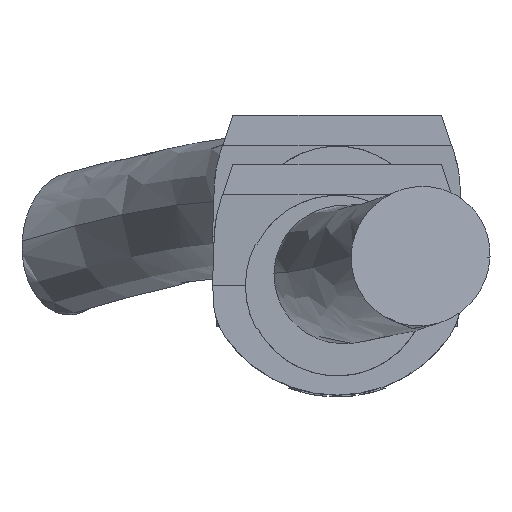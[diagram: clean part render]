
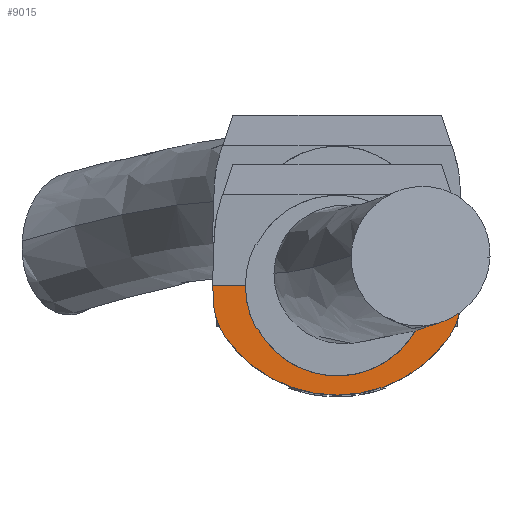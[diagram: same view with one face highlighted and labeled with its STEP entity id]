
A CAD part, top view. The second image highlights one B-rep face of the part: STEP entity #9015.
In plain terms, the highlighted planar face has unit normal (0, 0.035, 0.999).
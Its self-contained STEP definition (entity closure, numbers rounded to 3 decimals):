
#34 = ORIENTED_EDGE ( 'NONE', *, *, #12777, .F. ) ;
#42 = CARTESIAN_POINT ( 'NONE',  ( 441.239, -510.794, 1731.139 ) ) ;
#105 = VERTEX_POINT ( 'NONE', #12569 ) ;
#113 = CARTESIAN_POINT ( 'NONE',  ( 301.746, -524.598, 1731.621 ) ) ;
#151 = CARTESIAN_POINT ( 'NONE',  ( 392.027, -561.859, 1732.922 ) ) ;
#211 = CARTESIAN_POINT ( 'NONE',  ( 319.954, -519.678, 1731.449 ) ) ;
#235 = CARTESIAN_POINT ( 'NONE',  ( 320.951, -519.678, 1731.449 ) ) ;
#421 = CARTESIAN_POINT ( 'NONE',  ( 422.477, -503.003, 1730.867 ) ) ;
#592 = VERTEX_POINT ( 'NONE', #9440 ) ;
#608 = CARTESIAN_POINT ( 'NONE',  ( 313.523, -503.003, 1730.867 ) ) ;
#1221 =( BOUNDED_CURVE ( )  B_SPLINE_CURVE ( 3, ( #211, #7818, #608, #4470 ),
 .UNSPECIFIED., .F., .T. ) 
 B_SPLINE_CURVE_WITH_KNOTS ( ( 4, 4 ),
 ( 1.08, 1.571 ),
 .UNSPECIFIED. ) 
 CURVE ( )  GEOMETRIC_REPRESENTATION_ITEM ( )  RATIONAL_B_SPLINE_CURVE ( ( 1., 0.98, 0.98, 1. ) ) 
 REPRESENTATION_ITEM ( '' )  );
#1346 = VERTEX_POINT ( 'NONE', #6420 ) ;
#1577 = VERTEX_POINT ( 'NONE', #5758 ) ;
#1724 = VERTEX_POINT ( 'NONE', #4118 ) ;
#1808 = VERTEX_POINT ( 'NONE', #1830 ) ;
#1830 = CARTESIAN_POINT ( 'NONE',  ( 416.046, -519.678, 1731.449 ) ) ;
#1998 = ORIENTED_EDGE ( 'NONE', *, *, #4151, .F. ) ;
#2457 = ORIENTED_EDGE ( 'NONE', *, *, #5924, .F. ) ;
#2800 = LINE ( 'NONE', #8383, #3542 ) ;
#3139 = CARTESIAN_POINT ( 'NONE',  ( 294.488, -502.983, 1730.866 ) ) ;
#3290 = CARTESIAN_POINT ( 'NONE',  ( 301.746, -524.598, 1731.621 ) ) ;
#3317 = EDGE_CURVE ( 'NONE', #6737, #5479, #4514, .T. ) ;
#3387 = CARTESIAN_POINT ( 'NONE',  ( 268., -519.678, 1731.449 ) ) ;
#3441 = CARTESIAN_POINT ( 'NONE',  ( 415.049, -519.678, 1731.449 ) ) ;
#3466 = CARTESIAN_POINT ( 'NONE',  ( 438.751, -518.204, 1731.397 ) ) ;
#3542 = VECTOR ( 'NONE', #8311, 1000. ) ;
#3551 = EDGE_CURVE ( 'NONE', #13676, #8417, #11259, .T. ) ;
#3559 = CARTESIAN_POINT ( 'NONE',  ( 434.254, -524.598, 1731.621 ) ) ;
#3765 = CARTESIAN_POINT ( 'NONE',  ( 337.192, -574.997, 1733.381 ) ) ;
#3778 = ORIENTED_EDGE ( 'NONE', *, *, #10035, .T. ) ;
#3847 = DIRECTION ( 'NONE',  ( -0.035, -0.999, 0.035 ) ) ;
#3934 = ORIENTED_EDGE ( 'NONE', *, *, #6080, .T. ) ;
#4118 = CARTESIAN_POINT ( 'NONE',  ( 294.488, -502.983, 1730.866 ) ) ;
#4151 = EDGE_CURVE ( 'NONE', #1577, #592, #11123, .T. ) ;
#4469 = CARTESIAN_POINT ( 'NONE',  ( 297.249, -518.204, 1731.397 ) ) ;
#4470 = CARTESIAN_POINT ( 'NONE',  ( 313.523, -494., 1730.552 ) ) ;
#4484 = EDGE_CURVE ( 'NONE', #9795, #5481, #13290, .T. ) ;
#4508 = CARTESIAN_POINT ( 'NONE',  ( 434.254, -524.598, 1731.621 ) ) ;
#4514 =( BOUNDED_CURVE ( )  B_SPLINE_CURVE ( 3, ( #4551, #11772, #151, #3441 ),
 .UNSPECIFIED., .F., .F. ) 
 B_SPLINE_CURVE_WITH_KNOTS ( ( 4, 4 ),
 ( 2.07, 4.213 ),
 .UNSPECIFIED. ) 
 CURVE ( )  GEOMETRIC_REPRESENTATION_ITEM ( )  RATIONAL_B_SPLINE_CURVE ( ( 1., 0.653, 0.653, 1. ) ) 
 REPRESENTATION_ITEM ( '' )  );
#4551 = CARTESIAN_POINT ( 'NONE',  ( 320.951, -519.678, 1731.449 ) ) ;
#4559 = CARTESIAN_POINT ( 'NONE',  ( 415.049, -519.678, 1731.449 ) ) ;
#4787 = VECTOR ( 'NONE', #3847, 1000. ) ;
#5039 = AXIS2_PLACEMENT_3D ( 'NONE', #6246, #8640, #8502 ) ;
#5242 = VECTOR ( 'NONE', #7913, 1000. ) ;
#5479 = VERTEX_POINT ( 'NONE', #4559 ) ;
#5481 = VERTEX_POINT ( 'NONE', #12438 ) ;
#5519 = ORIENTED_EDGE ( 'NONE', *, *, #13497, .F. ) ;
#5656 = ORIENTED_EDGE ( 'NONE', *, *, #6705, .T. ) ;
#5723 = CARTESIAN_POINT ( 'NONE',  ( 416.046, -519.678, 1731.449 ) ) ;
#5734 = VECTOR ( 'NONE', #8701, 1000. ) ;
#5758 = CARTESIAN_POINT ( 'NONE',  ( 294.175, -494., 1730.552 ) ) ;
#5780 = EDGE_CURVE ( 'NONE', #1346, #592, #1221, .T. ) ;
#5924 = EDGE_CURVE ( 'NONE', #5481, #13676, #6365, .T. ) ;
#6017 =( BOUNDED_CURVE ( )  B_SPLINE_CURVE ( 3, ( #8665, #421, #12915, #5723 ),
 .UNSPECIFIED., .F., .T. ) 
 B_SPLINE_CURVE_WITH_KNOTS ( ( 4, 4 ),
 ( 4.712, 5.203 ),
 .UNSPECIFIED. ) 
 CURVE ( )  GEOMETRIC_REPRESENTATION_ITEM ( )  RATIONAL_B_SPLINE_CURVE ( ( 1., 0.98, 0.98, 1. ) ) 
 REPRESENTATION_ITEM ( '' )  );
#6080 = EDGE_CURVE ( 'NONE', #105, #1808, #6017, .T. ) ;
#6174 = EDGE_LOOP ( 'NONE', ( #34, #3934, #3778, #9129, #5656, #8668, #1998, #9323, #5519, #7377, #2457, #8798 ) ) ;
#6246 = CARTESIAN_POINT ( 'NONE',  ( 268., -549., 1732.473 ) ) ;
#6365 =( BOUNDED_CURVE ( )  B_SPLINE_CURVE ( 3, ( #11667, #42, #3466, #4508 ),
 .UNSPECIFIED., .F., .T. ) 
 B_SPLINE_CURVE_WITH_KNOTS ( ( 4, 4 ),
 ( 4.747, 5.325 ),
 .UNSPECIFIED. ) 
 CURVE ( )  GEOMETRIC_REPRESENTATION_ITEM ( )  RATIONAL_B_SPLINE_CURVE ( ( 1., 0.972, 0.972, 1. ) ) 
 REPRESENTATION_ITEM ( '' )  );
#6420 = CARTESIAN_POINT ( 'NONE',  ( 319.954, -519.678, 1731.449 ) ) ;
#6705 = EDGE_CURVE ( 'NONE', #6737, #1346, #10767, .T. ) ;
#6737 = VERTEX_POINT ( 'NONE', #235 ) ;
#7377 = ORIENTED_EDGE ( 'NONE', *, *, #3551, .F. ) ;
#7507 = FACE_OUTER_BOUND ( 'NONE', #6174, .T. ) ;
#7641 = DIRECTION ( 'NONE',  ( -1., 0., 0. ) ) ;
#7645 = CARTESIAN_POINT ( 'NONE',  ( 441.825, -494., 1730.552 ) ) ;
#7654 =( BOUNDED_CURVE ( )  B_SPLINE_CURVE ( 3, ( #3290, #4469, #10605, #3139 ),
 .UNSPECIFIED., .F., .T. ) 
 B_SPLINE_CURVE_WITH_KNOTS ( ( 4, 4 ),
 ( 0.958, 1.536 ),
 .UNSPECIFIED. ) 
 CURVE ( )  GEOMETRIC_REPRESENTATION_ITEM ( )  RATIONAL_B_SPLINE_CURVE ( ( 1., 0.972, 0.972, 1. ) ) 
 REPRESENTATION_ITEM ( '' )  );
#7694 = LINE ( 'NONE', #12717, #10878 ) ;
#7818 = CARTESIAN_POINT ( 'NONE',  ( 315.71, -511.737, 1731.172 ) ) ;
#7913 = DIRECTION ( 'NONE',  ( 1., 0., 0. ) ) ;
#8010 = CARTESIAN_POINT ( 'NONE',  ( 301.746, -524.598, 1731.621 ) ) ;
#8311 = DIRECTION ( 'NONE',  ( 1., 0., 0. ) ) ;
#8383 = CARTESIAN_POINT ( 'NONE',  ( 294.175, -494., 1730.552 ) ) ;
#8417 = VERTEX_POINT ( 'NONE', #113 ) ;
#8502 = DIRECTION ( 'NONE',  ( 0., 0.999, -0.035 ) ) ;
#8640 = DIRECTION ( 'NONE',  ( 0., -0.035, -0.999 ) ) ;
#8665 = CARTESIAN_POINT ( 'NONE',  ( 422.477, -494., 1730.552 ) ) ;
#8668 = ORIENTED_EDGE ( 'NONE', *, *, #5780, .T. ) ;
#8701 = DIRECTION ( 'NONE',  ( -1., 0., 0. ) ) ;
#8798 = ORIENTED_EDGE ( 'NONE', *, *, #4484, .F. ) ;
#9015 = ADVANCED_FACE ( 'NONE', ( #7507 ), #12825, .F. ) ;
#9071 = CARTESIAN_POINT ( 'NONE',  ( 398.808, -574.997, 1733.381 ) ) ;
#9129 = ORIENTED_EDGE ( 'NONE', *, *, #3317, .F. ) ;
#9323 = ORIENTED_EDGE ( 'NONE', *, *, #12445, .F. ) ;
#9440 = CARTESIAN_POINT ( 'NONE',  ( 313.523, -494., 1730.552 ) ) ;
#9795 = VERTEX_POINT ( 'NONE', #7645 ) ;
#10035 = EDGE_CURVE ( 'NONE', #1808, #5479, #11661, .T. ) ;
#10062 = CARTESIAN_POINT ( 'NONE',  ( 294.175, -494., 1730.552 ) ) ;
#10605 = CARTESIAN_POINT ( 'NONE',  ( 294.761, -510.794, 1731.139 ) ) ;
#10767 = LINE ( 'NONE', #3387, #11092 ) ;
#10878 = VECTOR ( 'NONE', #12654, 1000. ) ;
#11092 = VECTOR ( 'NONE', #7641, 1000. ) ;
#11123 = LINE ( 'NONE', #10062, #5242 ) ;
#11259 =( BOUNDED_CURVE ( )  B_SPLINE_CURVE ( 3, ( #12151, #9071, #3765, #8010 ),
 .UNSPECIFIED., .F., .T. ) 
 B_SPLINE_CURVE_WITH_KNOTS ( ( 4, 4 ),
 ( 5.325, 7.241 ),
 .UNSPECIFIED. ) 
 CURVE ( )  GEOMETRIC_REPRESENTATION_ITEM ( )  RATIONAL_B_SPLINE_CURVE ( ( 1., 0.717, 0.717, 1. ) ) 
 REPRESENTATION_ITEM ( '' )  );
#11595 = CARTESIAN_POINT ( 'NONE',  ( 268., -519.678, 1731.449 ) ) ;
#11661 = LINE ( 'NONE', #11595, #5734 ) ;
#11667 = CARTESIAN_POINT ( 'NONE',  ( 441.512, -502.983, 1730.866 ) ) ;
#11772 = CARTESIAN_POINT ( 'NONE',  ( 343.973, -561.859, 1732.922 ) ) ;
#12151 = CARTESIAN_POINT ( 'NONE',  ( 434.254, -524.598, 1731.621 ) ) ;
#12438 = CARTESIAN_POINT ( 'NONE',  ( 441.512, -502.983, 1730.866 ) ) ;
#12445 = EDGE_CURVE ( 'NONE', #1724, #1577, #7694, .T. ) ;
#12569 = CARTESIAN_POINT ( 'NONE',  ( 422.477, -494., 1730.552 ) ) ;
#12654 = DIRECTION ( 'NONE',  ( -0.035, 0.999, -0.035 ) ) ;
#12717 = CARTESIAN_POINT ( 'NONE',  ( 294.122, -492.499, 1730.5 ) ) ;
#12777 = EDGE_CURVE ( 'NONE', #105, #9795, #2800, .T. ) ;
#12825 = PLANE ( 'NONE',  #5039 ) ;
#12915 = CARTESIAN_POINT ( 'NONE',  ( 420.29, -511.737, 1731.172 ) ) ;
#13290 = LINE ( 'NONE', #13356, #4787 ) ;
#13356 = CARTESIAN_POINT ( 'NONE',  ( 441.878, -492.499, 1730.5 ) ) ;
#13497 = EDGE_CURVE ( 'NONE', #8417, #1724, #7654, .T. ) ;
#13676 = VERTEX_POINT ( 'NONE', #3559 ) ;
